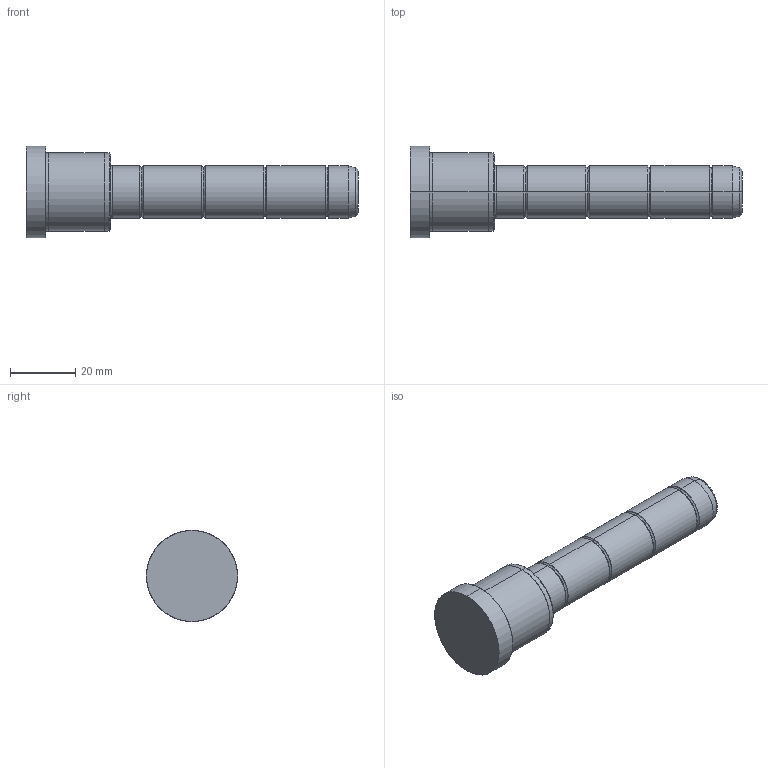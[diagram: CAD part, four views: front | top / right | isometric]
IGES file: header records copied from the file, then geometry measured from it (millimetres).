
Start section: SolidWorks IGES file using analytic representation for surfaces
Global section: file name: C:\Documents and Settings\kalite-mail\Desktop\IGS\D02\16\D02 - 16x26x76.IGS; native system: SolidWorks 2008; preprocessor: SolidWorks 2008; author: kalite-mail; date: 080616.141650; units: millimetre
Bounding box: 102 x 28 x 28 mm (x, y, z)
Surface area: 7107.7 mm2 (no closed solid volume)
Topology: 0 solids, 0 shells, 48 faces, 552 edges, 552 vertices
Faces by surface type: bspline 26, revolution 22
